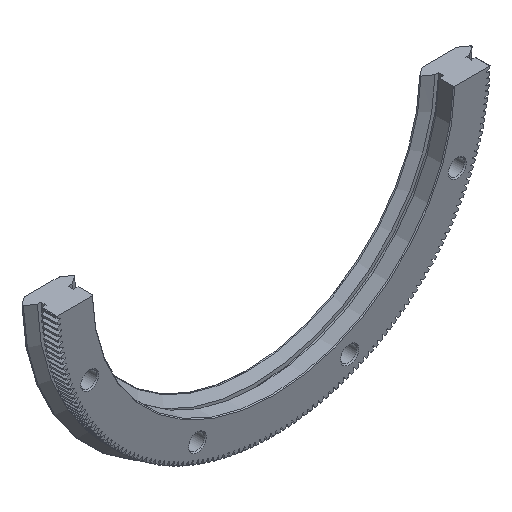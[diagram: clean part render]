
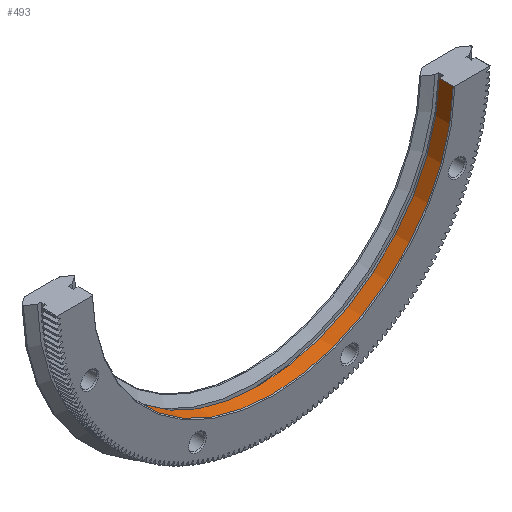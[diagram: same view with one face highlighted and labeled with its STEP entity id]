
A CAD part, isometric view. The second image highlights one B-rep face of the part: STEP entity #493.
In plain terms, the highlighted cylindrical face has radius 42.2 mm (diameter 84.4 mm), a partial arc.
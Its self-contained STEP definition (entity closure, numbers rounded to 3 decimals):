
#493 = ADVANCED_FACE( '', ( #1595 ), #1596, .F. );
#1595 = FACE_OUTER_BOUND( '', #2936, .T. );
#1596 = CYLINDRICAL_SURFACE( '', #2937, 42.2 );
#2936 = EDGE_LOOP( '', ( #7532, #7533, #7534, #7535 ) );
#2937 = AXIS2_PLACEMENT_3D( '', #7536, #7537, #7538 );
#7532 = ORIENTED_EDGE( '', *, *, #11095, .F. );
#7533 = ORIENTED_EDGE( '', *, *, #9283, .T. );
#7534 = ORIENTED_EDGE( '', *, *, #11096, .T. );
#7535 = ORIENTED_EDGE( '', *, *, #11089, .T. );
#7536 = CARTESIAN_POINT( '', ( 0., 0., 0. ) );
#7537 = DIRECTION( '', ( 0., 1., 0. ) );
#7538 = DIRECTION( '', ( 0., 0., -1. ) );
#9283 = EDGE_CURVE( '', #11236, #11234, #11237, .T. );
#11089 = EDGE_CURVE( '', #14328, #14326, #14329, .F. );
#11095 = EDGE_CURVE( '', #11236, #14326, #14335, .T. );
#11096 = EDGE_CURVE( '', #11234, #14328, #14336, .T. );
#11234 = VERTEX_POINT( '', #14491 );
#11236 = VERTEX_POINT( '', #14496 );
#11237 = LINE( '', #14497, #14498 );
#14326 = VERTEX_POINT( '', #19165 );
#14328 = VERTEX_POINT( '', #19168 );
#14329 = LINE( '', #19169, #19170 );
#14335 = CIRCLE( '', #19179, 42.2 );
#14336 = CIRCLE( '', #19180, 42.2 );
#14491 = CARTESIAN_POINT( '', ( -42.188, 0.2, -1. ) );
#14496 = CARTESIAN_POINT( '', ( -42.188, 3.5, -1. ) );
#14497 = CARTESIAN_POINT( '', ( -42.188, 0., -1. ) );
#14498 = VECTOR( '', #19534, 1000. );
#19165 = CARTESIAN_POINT( '', ( 42.188, 3.5, -1. ) );
#19168 = CARTESIAN_POINT( '', ( 42.188, 0.2, -1. ) );
#19169 = CARTESIAN_POINT( '', ( 42.188, 0., -1. ) );
#19170 = VECTOR( '', #22438, 1000. );
#19179 = AXIS2_PLACEMENT_3D( '', #22451, #22452, #22453 );
#19180 = AXIS2_PLACEMENT_3D( '', #22454, #22455, #22456 );
#19534 = DIRECTION( '', ( 0., -1., 0. ) );
#22438 = DIRECTION( '', ( 0., -1., 0. ) );
#22451 = CARTESIAN_POINT( '', ( 0., 3.5, 0. ) );
#22452 = DIRECTION( '', ( 0., -1., 0. ) );
#22453 = DIRECTION( '', ( 0., 0., -1. ) );
#22454 = CARTESIAN_POINT( '', ( 0., 0.2, 0. ) );
#22455 = DIRECTION( '', ( 0., -1., 0. ) );
#22456 = DIRECTION( '', ( 0., 0., -1. ) );
